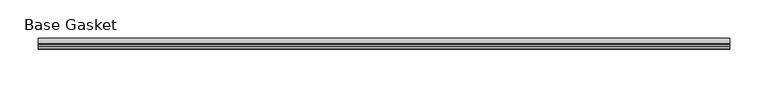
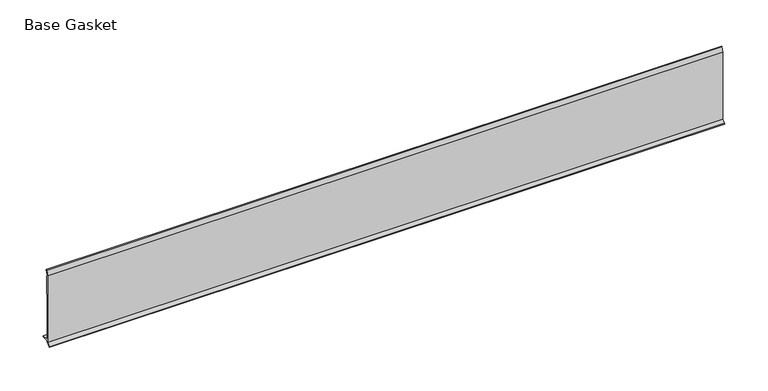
"""IFC4 building model written with IfcOpenShell, lengths in millimetres: furniture geometry, Gasket-Teknion-FHGB-AI_Healthcare-R2021 : Base Gasket."""

from ifc_helpers import new_model, si_unit, frame, origin, place, context, project, spatial, polyline, outline, extrude, source, transform, mapped, element, save


def base_gasket_8f79def8(model_context):
    return source(origin(), model_context, "Body", "SweptSolid", [
        extrude(outline(polyline([(-3.7283812, 98.4568417), (-1.1891543, 104.587663), (-0.6755308, 105.2002997), (-0.6755308, 104.4162708), (-2.2043812, 98.4568417), (-2.2043812, 96.8693477), (-1.4106313, 96.8693477), (-1.4106313, 71.4693447), (-2.2043812, 71.4693447), (-2.2043812, 7.9398773), (6.2405171, 7.9398773), (6.2405171, 6.3818476), (-2.1334222, 6.3818476), (-2.2043812, 4.3498477), (-6.8281054, 0.3520979), (-7.8482342, 0.0), (-7.4222115, 0.6560174), (-3.7283812, 4.3498477), (-3.7283812, 98.4568417)])), frame((-1527.8982117, 0.0, 0.0), z_axis=(1.0, 0.0, 0.0), x_axis=(0.0, 1.0, 0.0)), (0.0, 0.0, 1.0), 899.1979397),
    ])


if __name__ == "__main__":
    model = new_model("IFC4")
    model_context = context("Model", 3, world=origin())
    ifc_project = project(units=[si_unit("LENGTHUNIT", "METRE", prefix="MILLI")], contexts=[model_context])
    site = spatial("IfcSite", under=ifc_project)
    building = spatial("IfcBuilding", under=site)
    placement = place(None, origin())
    base_gasket_shape = base_gasket_8f79def8(model_context)
    element("IfcFurniture", 1, ObjectType="Gasket-Teknion-FHGB-AI_Healthcare-R2021 : Base Gasket", at=placement, inside=building, context=model_context, shape_type="MappedRepresentation", body=[
        mapped(base_gasket_shape, transform((0.0, 0.0, 0.0), x_axis=(1.0, 0.0, 0.0), y_axis=(0.0, 1.0, 0.0), z_axis=(0.0, 0.0, 1.0))),
    ])
    save(model, "model.ifc")
